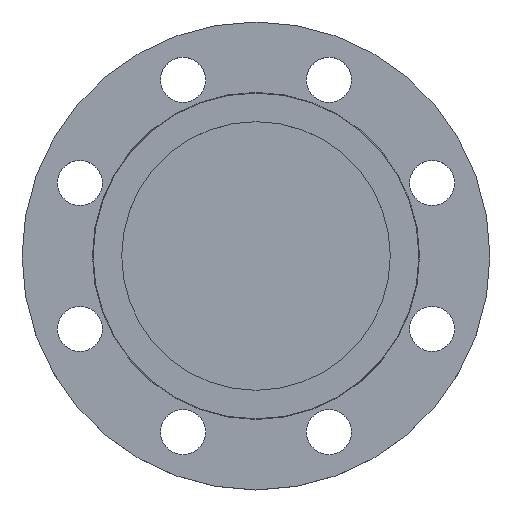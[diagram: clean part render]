
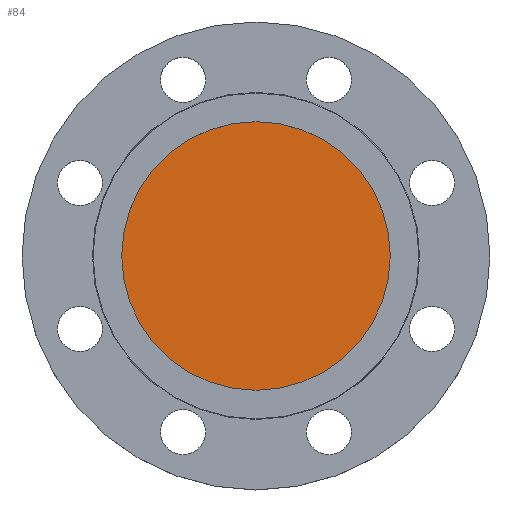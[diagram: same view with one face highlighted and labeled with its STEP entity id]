
A CAD part, top view. The second image highlights one B-rep face of the part: STEP entity #84.
In plain terms, the highlighted planar face has unit normal (0, 0, 1).
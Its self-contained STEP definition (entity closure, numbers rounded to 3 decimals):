
#6 = DIRECTION ( 'NONE',  ( -1., 0., 0. ) ) ;
#14 = AXIS2_PLACEMENT_3D ( 'NONE', #600, #863, #265 ) ;
#28 = VERTEX_POINT ( 'NONE', #74 ) ;
#39 = FACE_OUTER_BOUND ( 'NONE', #697, .T. ) ;
#74 = CARTESIAN_POINT ( 'NONE',  ( -77.5, 0., -5. ) ) ;
#84 = ADVANCED_FACE ( 'NONE', ( #39 ), #331, .T. ) ;
#156 = CARTESIAN_POINT ( 'NONE',  ( 0., 0., -5. ) ) ;
#238 = AXIS2_PLACEMENT_3D ( 'NONE', #156, #440, #714 ) ;
#256 = ORIENTED_EDGE ( 'NONE', *, *, #804, .F. ) ;
#265 = DIRECTION ( 'NONE',  ( 1., 0., 0. ) ) ;
#331 = PLANE ( 'NONE',  #14 ) ;
#363 = EDGE_CURVE ( 'NONE', #28, #731, #777, .T. ) ;
#368 = CARTESIAN_POINT ( 'NONE',  ( 0., 0., -5. ) ) ;
#399 = AXIS2_PLACEMENT_3D ( 'NONE', #368, #637, #6 ) ;
#440 = DIRECTION ( 'NONE',  ( 0., 0., -1. ) ) ;
#600 = CARTESIAN_POINT ( 'NONE',  ( 0., 0., -5. ) ) ;
#619 = CIRCLE ( 'NONE', #238, 77.5 ) ;
#632 = CARTESIAN_POINT ( 'NONE',  ( 77.5, 0., -5. ) ) ;
#637 = DIRECTION ( 'NONE',  ( 0., 0., -1. ) ) ;
#697 = EDGE_LOOP ( 'NONE', ( #820, #256 ) ) ;
#714 = DIRECTION ( 'NONE',  ( -1., 0., 0. ) ) ;
#731 = VERTEX_POINT ( 'NONE', #632 ) ;
#777 = CIRCLE ( 'NONE', #399, 77.5 ) ;
#804 = EDGE_CURVE ( 'NONE', #731, #28, #619, .T. ) ;
#820 = ORIENTED_EDGE ( 'NONE', *, *, #363, .F. ) ;
#863 = DIRECTION ( 'NONE',  ( 0., 0., 1. ) ) ;
